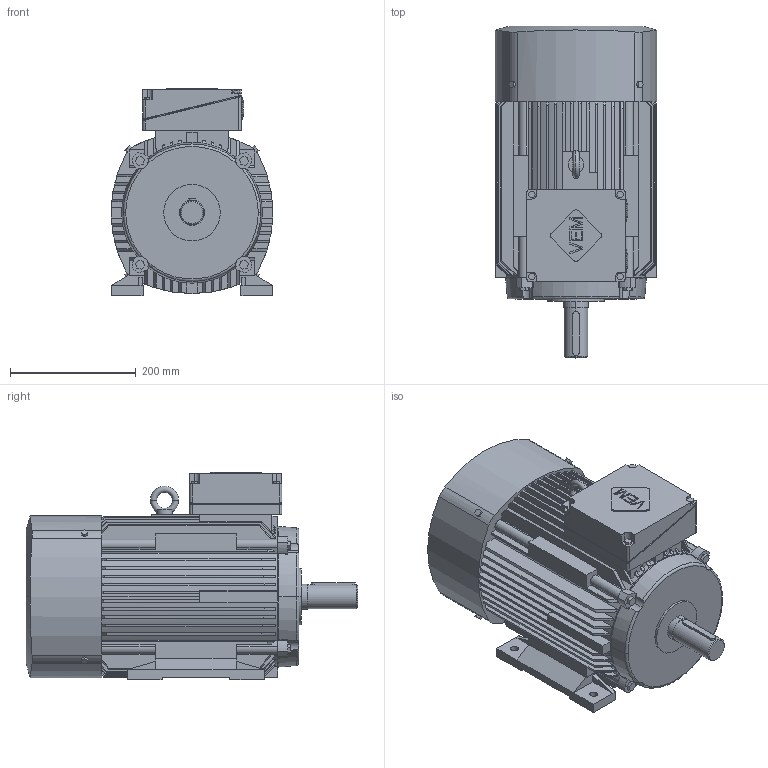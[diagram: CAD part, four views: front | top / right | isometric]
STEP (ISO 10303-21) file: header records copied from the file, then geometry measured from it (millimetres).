
FILE_DESCRIPTION(('no description'),'unknown implementation level');
FILE_NAME('tb04e70c6ef064ac8b89a034791884e9b.stp',' ',('VEM motors GmbH'),('CADClick - KiM GmbH - www.kimweb.de'),'unknown preprocess','ACIS','unknown authorization');
FILE_SCHEMA(('automotive_design'));
Length unit declared in the file: millimetre
Products named in the file (5): 1; 2; 3; 4; 5
Bounding box: 257.5 x 528.5 x 330 mm (x, y, z)
Volume: 22814921.2 mm3; surface area: 1061869.5 mm2
Topology: 5 solids, 5 shells, 682 faces, 1918 edges, 1266 vertices
Faces by surface type: plane 414, cylinder 154, cone 96, torus 14, bspline 4
Entity records: 46340 total; most frequent: CARTESIAN_POINT 7665, STYLED_ITEM 3871, PRESENTATION_STYLE_ASSIGNMENT 3871, COLOUR_RGB 3871, ORIENTED_EDGE 3836, DIRECTION 3362, EDGE_CURVE 1918, CURVE_STYLE 1918
